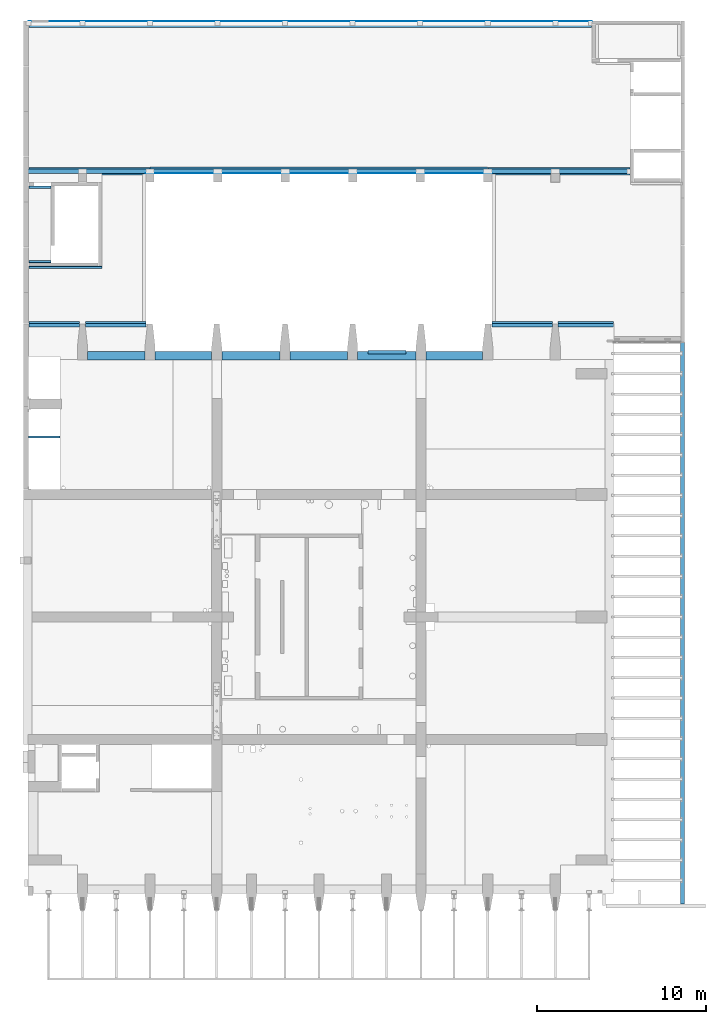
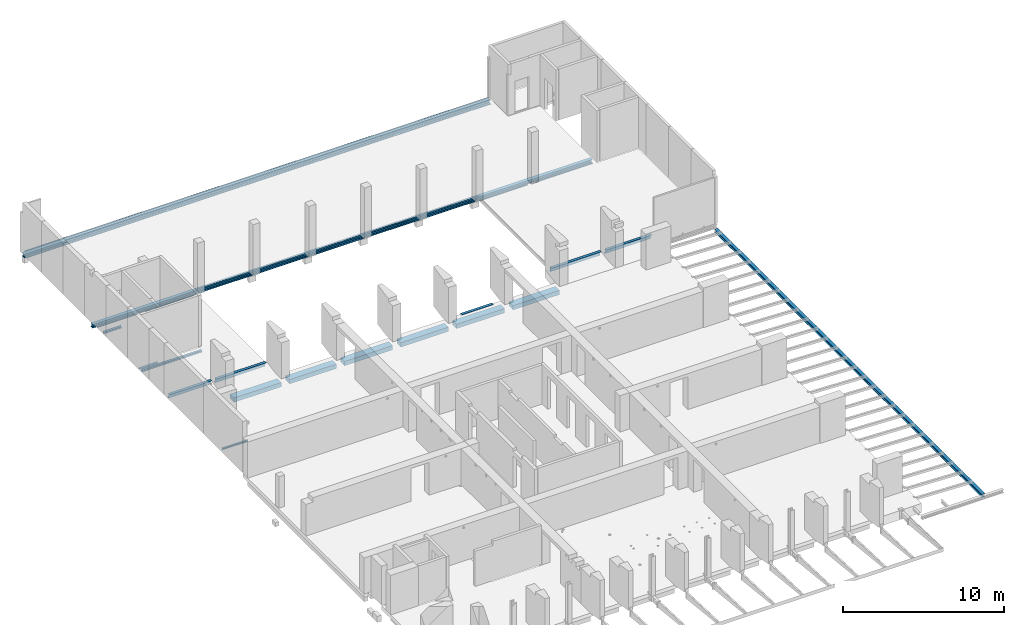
# One storey, part 12 of 27: 17 beams.
"""IFC2X3 building model written with IfcOpenShell, lengths in millimetres."""

from ifc_helpers import new_model, entity, si_unit, converted_unit, derived_unit, direction, frame, frame_2d, origin, origin_2d_with_axis, place, context, subcontext, project, spatial, polyline, circle_curve, parameter, trimmed, segment, composite_curve, rectangle, i_section, outline, extrude, source, transform, mapped, material, type_object, type_shapes, element, save


model = new_model("IFC2X3")

# Units and contexts
model_context = context("Model", 3, precision=0.01, world=origin(), true_north=direction((6.12303176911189e-17, 1.0)))
body_context = subcontext(model_context, "Body", "Model", "MODEL_VIEW")
ifc_project = project(units=[si_unit("LENGTHUNIT", "METRE", prefix="MILLI"), si_unit("AREAUNIT", "SQUARE_METRE"), si_unit("VOLUMEUNIT", "CUBIC_METRE"), converted_unit("PLANEANGLEUNIT", "DEGREE", entity("IfcRatioMeasure", 0.0174532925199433), si_unit("PLANEANGLEUNIT", "RADIAN"), dimensions=[0, 0, 0, 0, 0, 0, 0]), si_unit("MASSUNIT", "GRAM", prefix="KILO"), derived_unit("MASSDENSITYUNIT", [(si_unit("MASSUNIT", "GRAM", prefix="KILO"), 1), (si_unit("LENGTHUNIT", "METRE"), -3)]), si_unit("TIMEUNIT", "SECOND"), si_unit("FREQUENCYUNIT", "HERTZ"), si_unit("THERMODYNAMICTEMPERATUREUNIT", "DEGREE_CELSIUS"), derived_unit("THERMALTRANSMITTANCEUNIT", [(si_unit("MASSUNIT", "GRAM", prefix="KILO"), 1), (si_unit("THERMODYNAMICTEMPERATUREUNIT", "KELVIN"), -1), (si_unit("TIMEUNIT", "SECOND"), -3)]), derived_unit("VOLUMETRICFLOWRATEUNIT", [(si_unit("LENGTHUNIT", "METRE"), 3), (si_unit("TIMEUNIT", "SECOND"), -1)]), si_unit("ELECTRICCURRENTUNIT", "AMPERE"), si_unit("ELECTRICVOLTAGEUNIT", "VOLT"), si_unit("POWERUNIT", "WATT"), si_unit("FORCEUNIT", "NEWTON", prefix="KILO"), si_unit("ILLUMINANCEUNIT", "LUX"), si_unit("LUMINOUSFLUXUNIT", "LUMEN"), si_unit("LUMINOUSINTENSITYUNIT", "CANDELA"), derived_unit("USERDEFINED", [(si_unit("MASSUNIT", "GRAM", prefix="KILO"), -1), (si_unit("LENGTHUNIT", "METRE"), -2), (si_unit("TIMEUNIT", "SECOND"), 3), (si_unit("LUMINOUSFLUXUNIT", "LUMEN"), 1)]), derived_unit("LINEARVELOCITYUNIT", [(si_unit("LENGTHUNIT", "METRE"), 1), (si_unit("TIMEUNIT", "SECOND"), -1)]), si_unit("PRESSUREUNIT", "PASCAL"), derived_unit("USERDEFINED", [(si_unit("LENGTHUNIT", "METRE"), -2), (si_unit("MASSUNIT", "GRAM", prefix="KILO"), 1), (si_unit("TIMEUNIT", "SECOND"), -2)])], contexts=[model_context])

# Site, building, storey
site_placement = place(None, origin())
site = spatial("IfcSite", under=ifc_project, at=site_placement, Name="Default", CompositionType="ELEMENT")
building_placement = place(site_placement, origin())
building = spatial("IfcBuilding", under=site, at=building_placement, Name="niet gebruiken", CompositionType="ELEMENT")
storey_placement = place(building_placement, frame((0.0, 0.0, 6000.0)))
storey = spatial("IfcBuildingStorey", under=building, at=storey_placement, Name="01 eerste verdieping", CompositionType="ELEMENT", Elevation=6000.0)

# Beams
ifc_material_1 = material(Name="NLRS_h2_staal")
beam_type_1 = type_object("IfcBeamType", Name="NLRS_28.11_SF_WPB_stalen ligger HEA_gen:ligger HEA 120", PredefinedType="BEAM")
beam_1_placement = place(storey_placement, frame((124560.0, 28165.0, -168.0)))
element("IfcBeam", 1, at=beam_1_placement, inside=storey, type_object=beam_type_1, material=ifc_material_1, Name="NLRS_28.11_SF_WPB_stalen ligger HEA_gen:ligger HEA 120", ObjectType="NLRS_28.11_SF_WPB_stalen ligger HEA_gen:ligger HEA 120", context=body_context, shape_type="SweptSolid", body=[
    extrude(i_section(OverallWidth=120.000000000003, OverallDepth=114.0, WebThickness=4.9999999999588, FlangeThickness=8.00000000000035, FilletRadius=12.0000000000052, at=frame_2d((-1.08002495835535e-12, 4.33075797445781e-12), x_axis=(0.0, 1.0))), frame((0.0, 0.0, -57.0), z_axis=(1.0, 0.0, 0.0), x_axis=(0.0, 0.0, -1.0)), (0.0, 0.0, 1.0), 1850.0),
])
ifc_material_2 = material(Name="NLRS_f2_beton ihwg")
beam_type_2 = type_object("IfcBeamType", Name="500x600", PredefinedType="BEAM", material=ifc_material_2)
shared_shape_1 = source(origin(), body_context, "Body", "SweptSolid", [
    extrude(rectangle(XDim=3350.0, YDim=499.999999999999, at=frame_2d((335.000000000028, -45.9999999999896), x_axis=(1.0, 0.0))), frame((150110.0, 32934.0, 5310.0), z_axis=(0.0, 0.0, 1.0), x_axis=(-1.0, 0.0, 0.0)), (0.0, 0.0, 1.0), 329.999999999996),
    extrude(rectangle(XDim=3400.00000000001, YDim=499.999999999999, at=frame_2d((8.64019966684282e-12, -2.17426077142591e-12), x_axis=(1.0, 0.0))), frame((129750.0, 32980.0, 5310.0), z_axis=(0.0, 0.0, 1.0), x_axis=(-1.0, 0.0, 0.0)), (0.0, 0.0, 1.0), 329.999999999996),
    extrude(rectangle(XDim=3450.0, YDim=499.999999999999, at=frame_2d((-8.64019966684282e-12, -2.17426077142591e-12), x_axis=(1.0, 0.0))), frame((145775.0, 32980.0, 5310.0), z_axis=(0.0, 0.0, 1.0), x_axis=(-1.0, 0.0, 0.0)), (0.0, 0.0, 1.0), 329.999999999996),
    extrude(rectangle(XDim=3399.99999999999, YDim=499.999999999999, at=origin_2d_with_axis()), frame((141750.0, 32980.0, 5310.0), z_axis=(0.0, 0.0, 1.0), x_axis=(-1.0, 0.0, 0.0)), (0.0, 0.0, 1.0), 329.999999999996),
    extrude(rectangle(XDim=3450.0, YDim=499.999999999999, at=frame_2d((8.64019966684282e-12, 2.17426077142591e-12), x_axis=(1.0, 0.0))), frame((137725.0, 32980.0, 5310.0), z_axis=(0.0, 0.0, 1.0), x_axis=(-1.0, 0.0, 0.0)), (0.0, 0.0, 1.0), 329.999999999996),
    extrude(rectangle(XDim=3350.0, YDim=499.999999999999, at=frame_2d((0.0, -4.33431068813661e-12), x_axis=(1.0, 0.0))), frame((133725.0, 32980.0, 5310.0), z_axis=(0.0, 0.0, 1.0), x_axis=(-1.0, 0.0, 0.0)), (0.0, 0.0, 1.0), 329.999999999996),
])
type_shapes(beam_type_2, [shared_shape_1])
beam_2_placement = place(storey_placement, frame((0.0, 0.0, -6000.0)))
element("IfcBeam", 2, at=beam_2_placement, inside=storey, type_object=beam_type_2, material=ifc_material_2, Name="NLRS_28.11_SF_WPB_betonbalk ihwg recht_gen:500x600", ObjectType="500x600", context=body_context, shape_type="MappedRepresentation", body=[
    mapped(shared_shape_1, transform((0.0, 0.0, 0.0), scale=1.0)),
])
beam_type_3 = type_object("IfcBeamType", Name="ligger SFB250 HE260A+355x12", PredefinedType="BEAM", material=ifc_material_1)
shared_shape_2 = source(origin(), body_context, "Body", "SweptSolid", [
    extrude(outline(polyline([(-205.0, -11223.3333333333), (55.0, -11223.3333333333), (55.0, -11053.3333333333), (150.0, -11053.3333333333), (150.0, 22276.6666666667), (-205.0, 22276.6666666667), (-205.0, -11223.3333333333)])), frame((135623.333333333, 52570.0, 5568.0), z_axis=(0.0, 0.0, 1.0), x_axis=(0.0, -1.0, 0.0)), (0.0, 0.0, 1.0), 11.9999999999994),
    extrude(outline(composite_curve([segment(polyline([(112.500000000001, -130.0), (125.0, -130.0)]), True, "CONTINUOUS"), segment(polyline([(125.0, -130.0), (125.0, 130.0)]), True, "CONTINUOUS"), segment(polyline([(125.0, 130.0), (112.500000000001, 130.0)]), True, "CONTINUOUS"), segment(polyline([(112.500000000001, 130.0), (112.500000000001, 27.75)]), True, "CONTINUOUS"), segment(trimmed(circle_curve(frame_2d((88.5000000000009, 27.75), x_axis=(0.0, 1.0)), 24.0), [parameter(180.000000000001)], [parameter(270.0)], True, "PARAMETER"), False, "CONTINUOUS"), segment(polyline([(88.5000000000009, 3.75000000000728), (-88.4999999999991, 3.75000000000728)]), True, "CONTINUOUS"), segment(trimmed(circle_curve(frame_2d((-88.4999999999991, 27.75), x_axis=(0.0, 1.0)), 24.0), [parameter(90.0000000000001)], [parameter(180.0)], True, "PARAMETER"), False, "CONTINUOUS"), segment(polyline([(-112.499999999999, 27.75), (-112.499999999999, 130.0)]), True, "CONTINUOUS"), segment(polyline([(-112.499999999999, 130.0), (-125.0, 130.0)]), True, "CONTINUOUS"), segment(polyline([(-125.0, 130.0), (-125.0, -130.0)]), True, "CONTINUOUS"), segment(polyline([(-125.0, -130.0), (-112.499999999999, -130.0)]), True, "CONTINUOUS"), segment(polyline([(-112.499999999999, -130.0), (-112.499999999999, -27.7499999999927)]), True, "CONTINUOUS"), segment(trimmed(circle_curve(frame_2d((-88.4999999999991, -27.7499999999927), x_axis=(0.0, 1.0)), 24.0), [parameter(3.56222124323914e-13)], [parameter(90.0000000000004)], True, "PARAMETER"), False, "CONTINUOUS"), segment(polyline([(-88.4999999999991, -3.75), (88.5000000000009, -3.75)]), True, "CONTINUOUS"), segment(trimmed(circle_curve(frame_2d((88.5000000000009, -27.7499999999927), x_axis=(0.0, 1.0)), 24.0), [parameter(270.0)], [parameter(3.56222124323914e-13)], True, "PARAMETER"), False, "CONTINUOUS"), segment(polyline([(112.500000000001, -27.7499999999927), (112.500000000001, -130.0)]), True, "CONTINUOUS")], self_intersect=False)), frame((124400.0, 52645.0, 5705.0), z_axis=(1.0, 0.0, 0.0), x_axis=(0.0, 0.0, 1.0)), (0.0, 0.0, 1.0), 33500.0),
])
type_shapes(beam_type_3, [shared_shape_2])
beam_3_placement = place(storey_placement, frame((0.0, 0.0, -6000.0)))
element("IfcBeam", 3, at=beam_3_placement, inside=storey, type_object=beam_type_3, material=ifc_material_1, Name="NLRS_28.11_SF_WPB_stalen ligger SFB_gen_BSc:ligger SFB250 HE260A+355x12", ObjectType="ligger SFB250 HE260A+355x12", context=body_context, shape_type="MappedRepresentation", body=[
    mapped(shared_shape_2, transform((0.0, 0.0, 0.0), scale=1.0)),
])
beam_type_4 = type_object("IfcBeamType", Name="ligger SFB260 HE260B+375x12", PredefinedType="BEAM", material=ifc_material_1)
shared_shape_3 = source(origin(), body_context, "Body", "SweptSolid", [
    extrude(rectangle(XDim=19980.0, YDim=375.000000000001, at=origin_2d_with_axis()), frame((141750.0, 43947.5, 5568.0), z_axis=(0.0, 0.0, 1.0), x_axis=(-1.0, 0.0, 0.0)), (0.0, 0.0, 1.0), 11.9999999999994),
    extrude(outline(composite_curve([segment(polyline([(-130.0, -112.499999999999), (-130.0, -130.0)]), True, "CONTINUOUS"), segment(polyline([(-130.0, -130.0), (130.0, -130.0)]), True, "CONTINUOUS"), segment(polyline([(130.0, -130.0), (130.0, -112.499999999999)]), True, "CONTINUOUS"), segment(polyline([(130.0, -112.499999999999), (29.0, -112.499999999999)]), True, "CONTINUOUS"), segment(trimmed(circle_curve(frame_2d((29.0, -88.4999999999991), x_axis=(1.0, 0.0)), 24.0), [parameter(180.000000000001)], [parameter(270.0)], True, "PARAMETER"), False, "CONTINUOUS"), segment(polyline([(5.0, -88.4999999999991), (5.0, 88.5)]), True, "CONTINUOUS"), segment(trimmed(circle_curve(frame_2d((29.0, 88.5), x_axis=(1.0, 0.0)), 24.0), [parameter(90.0000000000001)], [parameter(180.0)], True, "PARAMETER"), False, "CONTINUOUS"), segment(polyline([(29.0, 112.5), (130.0, 112.5)]), True, "CONTINUOUS"), segment(polyline([(130.0, 112.5), (130.0, 130.0)]), True, "CONTINUOUS"), segment(polyline([(130.0, 130.0), (-130.0, 130.0)]), True, "CONTINUOUS"), segment(polyline([(-130.0, 130.0), (-130.0, 112.5)]), True, "CONTINUOUS"), segment(polyline([(-130.0, 112.5), (-29.0, 112.5)]), True, "CONTINUOUS"), segment(trimmed(circle_curve(frame_2d((-29.0, 88.5), x_axis=(1.0, 0.0)), 24.0), [parameter(3.56222124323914e-13)], [parameter(90.0000000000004)], True, "PARAMETER"), False, "CONTINUOUS"), segment(polyline([(-5.0, 88.5), (-5.0, -88.4999999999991)]), True, "CONTINUOUS"), segment(trimmed(circle_curve(frame_2d((-29.0, -88.4999999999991), x_axis=(1.0, 0.0)), 24.0), [parameter(270.0)], [parameter(3.56222124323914e-13)], True, "PARAMETER"), False, "CONTINUOUS"), segment(polyline([(-29.0, -112.499999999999), (-130.0, -112.499999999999)]), True, "CONTINUOUS")], self_intersect=False)), frame((131760.0, 43890.0, 5710.0), z_axis=(-1.0, 0.0, 0.0), x_axis=(0.0, 1.0, 0.0)), (0.0, 0.0, -1.0), 19980.0),
])
type_shapes(beam_type_4, [shared_shape_3])
beam_4_placement = place(storey_placement, frame((0.0, 0.0, -6000.0)))
element("IfcBeam", 4, at=beam_4_placement, inside=storey, type_object=beam_type_4, material=ifc_material_1, Name="NLRS_28.11_SF_WPB_stalen ligger SFB_gen_BSc:ligger SFB260 HE260B+375x12", ObjectType="ligger SFB260 HE260B+375x12", context=body_context, shape_type="MappedRepresentation", body=[
    mapped(shared_shape_3, transform((0.0, 0.0, 0.0), scale=1.0)),
])
beam_type_5 = type_object("IfcBeamType", Name="NLRS_28.11_SF_WPB_stalen ligger hoekprofiel gelijkzijdig_gen:ligger gelijzijdig hoekprofiel LEQU_150x150x15", PredefinedType="BEAM")
beam_5_placement = place(storey_placement, frame((128900.0, 38227.5000000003, -358.0), z_axis=(0.0, 0.0, 1.0), x_axis=(-1.0, 0.0, 0.0)))
element("IfcBeam", 5, at=beam_5_placement, inside=storey, type_object=beam_type_5, material=ifc_material_1, Name="NLRS_28.11_SF_WPB_stalen ligger hoekprofiel gelijkzijdig_gen:ligger gelijzijdig hoekprofiel LEQU_150x150x15", ObjectType="NLRS_28.11_SF_WPB_stalen ligger hoekprofiel gelijkzijdig_gen:ligger gelijzijdig hoekprofiel LEQU_150x150x15", context=body_context, shape_type="SweptSolid", body=[
    extrude(outline(composite_curve([segment(polyline([(-93.3333333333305, -56.6666666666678), (56.6666666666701, -56.6666666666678)]), True, "CONTINUOUS"), segment(polyline([(56.6666666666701, -56.6666666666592), (56.6666666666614, 93.3333333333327)]), True, "CONTINUOUS"), segment(polyline([(56.6666666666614, 93.3333333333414), (49.6666666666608, 93.3333333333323)]), True, "CONTINUOUS"), segment(trimmed(circle_curve(frame_2d((49.6666666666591, 85.3333333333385), x_axis=(0.0, 1.0)), 7.99999999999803), [parameter(0.0)], [parameter(90.0000000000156)], True, "PARAMETER"), True, "CONTINUOUS"), segment(polyline([(41.666666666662, 85.333333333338), (41.6666666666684, -25.6666666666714)]), True, "CONTINUOUS"), segment(trimmed(circle_curve(frame_2d((25.6666666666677, -25.6666666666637), x_axis=(1.0, 0.0)), 16.0000000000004), [parameter(270.0)], [parameter(0.0)], True, "PARAMETER"), False, "CONTINUOUS"), segment(polyline([(25.6666666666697, -41.66666666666), (-85.333333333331, -41.6666666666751)]), True, "CONTINUOUS"), segment(trimmed(circle_curve(frame_2d((-85.3333333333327, -49.666666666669), x_axis=(0.0, 1.0)), 7.99999999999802), [parameter(0.0)], [parameter(90.0000000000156)], True, "PARAMETER"), True, "CONTINUOUS"), segment(polyline([(-93.3333333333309, -49.6666666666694), (-93.3333333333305, -56.6666666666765)]), True, "CONTINUOUS")], self_intersect=False)), frame((0.0, 14.1666666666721, -18.3333333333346), z_axis=(1.0, 0.0, 0.0), x_axis=(0.0, 0.0, -1.0)), (0.0, 0.0, 1.0), 4330.00000000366),
])
beam_6_placement = place(storey_placement, frame((124570.0, 42987.5, -358.0)))
element("IfcBeam", 6, at=beam_6_placement, inside=storey, type_object=beam_type_5, material=ifc_material_1, Name="NLRS_28.11_SF_WPB_stalen ligger hoekprofiel gelijkzijdig_gen:ligger gelijzijdig hoekprofiel LEQU_150x150x15", ObjectType="NLRS_28.11_SF_WPB_stalen ligger hoekprofiel gelijkzijdig_gen:ligger gelijzijdig hoekprofiel LEQU_150x150x15", context=body_context, shape_type="SweptSolid", body=[
    extrude(outline(composite_curve([segment(polyline([(49.6666666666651, -93.3333333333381), (56.6666666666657, -93.3333333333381)]), True, "CONTINUOUS"), segment(polyline([(56.6666666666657, -93.3333333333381), (56.6666666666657, 56.6666666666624)]), True, "CONTINUOUS"), segment(polyline([(56.6666666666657, 56.6666666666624), (-93.3333333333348, 56.6666666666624)]), True, "CONTINUOUS"), segment(polyline([(-93.3333333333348, 56.6666666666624), (-93.3333333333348, 49.666666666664)]), True, "CONTINUOUS"), segment(trimmed(circle_curve(frame_2d((-85.3333333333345, 49.666666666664), x_axis=(-1.0, 0.0)), 7.99999999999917), [parameter(0.0)], [parameter(90.0000000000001)], True, "PARAMETER"), True, "CONTINUOUS"), segment(polyline([(-85.3333333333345, 41.6666666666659), (25.6666666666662, 41.6666666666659)]), True, "CONTINUOUS"), segment(trimmed(circle_curve(frame_2d((25.6666666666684, 25.6666666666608), x_axis=(0.0, 1.0)), 15.9999999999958), [parameter(269.999999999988)], [parameter(0.0)], True, "PARAMETER"), False, "CONTINUOUS"), segment(polyline([(41.6666666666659, 25.6666666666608), (41.6666666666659, -85.3333333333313)]), True, "CONTINUOUS"), segment(trimmed(circle_curve(frame_2d((49.6666666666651, -85.3333333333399), x_axis=(-1.0, 0.0)), 7.99999999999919), [parameter(0.0)], [parameter(90.0000000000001)], True, "PARAMETER"), True, "CONTINUOUS")], self_intersect=False)), frame((0.0, -14.1666666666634, -18.3333333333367), z_axis=(1.0, 0.0, 0.0), x_axis=(0.0, 0.0, -1.0)), (0.0, 0.0, 1.0), 1310.00000000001),
])
beam_7_placement = place(storey_placement, frame((124570.0, 38512.5, -358.0)))
element("IfcBeam", 7, at=beam_7_placement, inside=storey, type_object=beam_type_5, material=ifc_material_1, Name="NLRS_28.11_SF_WPB_stalen ligger hoekprofiel gelijkzijdig_gen:ligger gelijzijdig hoekprofiel LEQU_150x150x15", ObjectType="NLRS_28.11_SF_WPB_stalen ligger hoekprofiel gelijkzijdig_gen:ligger gelijzijdig hoekprofiel LEQU_150x150x15", context=body_context, shape_type="SweptSolid", body=[
    extrude(outline(composite_curve([segment(polyline([(-93.333333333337, -56.6666666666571), (56.6666666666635, -56.6666666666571)]), True, "CONTINUOUS"), segment(polyline([(56.6666666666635, -56.6666666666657), (56.6666666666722, 93.3333333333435)]), True, "CONTINUOUS"), segment(polyline([(56.6666666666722, 93.3333333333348), (49.6666666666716, 93.3333333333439)]), True, "CONTINUOUS"), segment(trimmed(circle_curve(frame_2d((49.666666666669, 85.3333333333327), x_axis=(0.0, 1.0)), 7.99999999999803), [parameter(0.0)], [parameter(90.0000000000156)], True, "PARAMETER"), True, "CONTINUOUS"), segment(polyline([(41.6666666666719, 85.3333333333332), (41.6666666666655, -25.6666666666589)]), True, "CONTINUOUS"), segment(trimmed(circle_curve(frame_2d((25.6666666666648, -25.6666666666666), x_axis=(1.0, 0.0)), 16.0000000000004), [parameter(270.0)], [parameter(0.0)], True, "PARAMETER"), False, "CONTINUOUS"), segment(polyline([(25.6666666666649, -41.666666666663), (-85.3333333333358, -41.6666666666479)]), True, "CONTINUOUS"), segment(trimmed(circle_curve(frame_2d((-85.3333333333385, -49.6666666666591), x_axis=(0.0, 1.0)), 7.99999999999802), [parameter(0.0)], [parameter(90.0000000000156)], True, "PARAMETER"), True, "CONTINUOUS"), segment(polyline([(-93.3333333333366, -49.6666666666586), (-93.333333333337, -56.6666666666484)]), True, "CONTINUOUS")], self_intersect=False)), frame((0.0, 14.1666666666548, -18.3333333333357), z_axis=(1.0, 0.0, 0.0), x_axis=(0.0, 0.0, -1.0)), (0.0, 0.0, 1.0), 1310.00000000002),
])
beam_type_6 = type_object("IfcBeamType", Name="NLRS_28.11_SF_WPB_stalen ligger Z-profiel_gen_BSc:ligger Z-profiel 200/15x355/15x150/15", PredefinedType="BEAM")
beam_8_placement = place(storey_placement, frame((127580.0, 34857.5, -242.499999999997), z_axis=(0.0, 0.0, 1.0), x_axis=(-1.0, 0.0, 0.0)))
element("IfcBeam", 8, at=beam_8_placement, inside=storey, type_object=beam_type_6, material=ifc_material_1, Name="NLRS_28.11_SF_WPB_stalen ligger Z-profiel_gen_BSc:ligger Z-profiel 200/15x355/15x150/15", ObjectType="NLRS_28.11_SF_WPB_stalen ligger Z-profiel_gen_BSc:ligger Z-profiel 200/15x355/15x150/15", context=body_context, shape_type="SweptSolid", body=[
    extrude(outline(polyline([(177.500000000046, -155.0), (192.500000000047, -155.0), (192.500000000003, -5.0), (-177.499999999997, -5.0), (-177.500000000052, 180.0), (-192.50000000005, 180.0), (-192.499999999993, -20.0), (177.500000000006, -20.0), (177.500000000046, -155.0)])), frame((0.0, 12.5000000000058, 0.0), z_axis=(1.0, 0.0, 0.0), x_axis=(0.0, 0.0, -1.0)), (0.0, 0.0, 1.0), 3010.00000000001),
])
beam_9_placement = place(storey_placement, frame((155580.0, 34857.500000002, -242.499999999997), z_axis=(0.0, 0.0, 1.0), x_axis=(-1.0, 0.0, 0.0)))
element("IfcBeam", 9, at=beam_9_placement, inside=storey, type_object=beam_type_6, material=ifc_material_1, Name="NLRS_28.11_SF_WPB_stalen ligger Z-profiel_gen_BSc:ligger Z-profiel 200/15x355/15x150/15", ObjectType="NLRS_28.11_SF_WPB_stalen ligger Z-profiel_gen_BSc:ligger Z-profiel 200/15x355/15x150/15", context=body_context, shape_type="SweptSolid", body=[
    extrude(outline(polyline([(177.50000000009, -155.0), (192.500000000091, -155.0), (192.500000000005, -5.0), (-177.499999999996, -5.0), (-177.500000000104, 180.0), (-192.500000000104, 180.0), (-192.499999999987, -20.0), (177.500000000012, -20.0), (177.50000000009, -155.0)])), frame((0.0, 12.5000000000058, 0.0), z_axis=(1.0, 0.0, 0.0), x_axis=(0.0, 0.0, -1.0)), (0.0, 0.0, 1.0), 3580.00000000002),
])
beam_10_placement = place(storey_placement, frame((159200.0, 34857.500000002, -242.499999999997), z_axis=(0.0, 0.0, 1.0), x_axis=(-1.0, 0.0, 0.0)))
element("IfcBeam", 10, at=beam_10_placement, inside=storey, type_object=beam_type_6, material=ifc_material_1, Name="NLRS_28.11_SF_WPB_stalen ligger Z-profiel_gen_BSc:ligger Z-profiel 200/15x355/15x150/15", ObjectType="NLRS_28.11_SF_WPB_stalen ligger Z-profiel_gen_BSc:ligger Z-profiel 200/15x355/15x150/15", context=body_context, shape_type="SweptSolid", body=[
    extrude(outline(polyline([(177.500000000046, -155.0), (192.500000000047, -155.0), (192.500000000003, -5.0), (-177.499999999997, -5.0), (-177.500000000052, 180.0), (-192.50000000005, 180.0), (-192.499999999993, -20.0), (177.500000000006, -20.0), (177.500000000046, -155.0)])), frame((0.0, 12.5000000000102, 0.0), z_axis=(1.0, 0.0, 0.0), x_axis=(0.0, 0.0, -1.0)), (0.0, 0.0, 1.0), 3279.99999999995),
])
beam_11_placement = place(storey_placement, frame((131500.0, 34857.5, -242.499999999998), z_axis=(0.0, 0.0, 1.0), x_axis=(-1.0, 0.0, 0.0)))
element("IfcBeam", 11, at=beam_11_placement, inside=storey, type_object=beam_type_6, material=ifc_material_1, Name="NLRS_28.11_SF_WPB_stalen ligger Z-profiel_gen_BSc:ligger Z-profiel 200/15x355/15x150/15", ObjectType="NLRS_28.11_SF_WPB_stalen ligger Z-profiel_gen_BSc:ligger Z-profiel 200/15x355/15x150/15", context=body_context, shape_type="SweptSolid", body=[
    extrude(outline(polyline([(177.500000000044, -155.0), (192.500000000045, -155.0), (192.500000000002, -5.0), (-177.499999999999, -5.0), (-177.500000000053, 180.0), (-192.500000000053, 180.0), (-192.499999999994, -20.0), (177.500000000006, -20.0), (177.500000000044, -155.0)])), frame((0.0, 12.5000000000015, 0.0), z_axis=(1.0, 0.0, 0.0), x_axis=(0.0, 0.0, -1.0)), (0.0, 0.0, 1.0), 3580.00000000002),
])
beam_type_7 = type_object("IfcBeamType", Name="NLRS_28.11_SF_WPB_stalen ligger HEA_gen:ligger HEA 240", PredefinedType="BEAM")
beam_12_placement = place(storey_placement, frame((163290.0, 510.0, -445.0), z_axis=(0.0, 0.0, 1.0), x_axis=(0.0, 1.0, 0.0)))
element("IfcBeam", 12, at=beam_12_placement, inside=storey, type_object=beam_type_7, material=ifc_material_1, Name="NLRS_28.11_SF_WPB_stalen ligger HEA_gen:ligger HEA 240", ObjectType="NLRS_28.11_SF_WPB_stalen ligger HEA_gen:ligger HEA 240", context=body_context, shape_type="SweptSolid", body=[
    extrude(i_section(OverallWidth=240.000000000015, OverallDepth=230.000000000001, WebThickness=7.49999999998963, FlangeThickness=11.9999999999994, FilletRadius=21.0000000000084, at=frame_2d((-5.40012479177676e-13, 0.0), x_axis=(0.0, 1.0))), frame((0.0, 0.0, -115.0), z_axis=(1.0, 0.0, 0.0), x_axis=(0.0, 0.0, -1.0)), (0.0, 0.0, 1.0), 33240.0),
])
beam_type_8 = type_object("IfcBeamType", Name="ligger SFB260 HE260B+450x12", PredefinedType="BEAM", material=ifc_material_1)
shared_shape_4 = source(origin(), body_context, "Body", "SweptSolid", [
    extrude(outline(polyline([(-3082.0, -322.0), (4088.0, -322.0), (4088.0, 128.0), (1178.0, 128.0), (1178.0, 33.0), (638.0, 33.0), (638.0, 128.0), (-2822.0, 128.0), (-2822.0, 33.0), (-3082.0, 33.0), (-3082.0, -322.0)])), frame((128658.0, 43793.0, 5568.0), z_axis=(0.0, 0.0, 1.0), x_axis=(-1.0, 0.0, 0.0)), (0.0, 0.0, 1.0), 11.9999999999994),
    extrude(outline(composite_curve([segment(polyline([(112.499999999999, -130.0), (130.0, -130.0)]), True, "CONTINUOUS"), segment(polyline([(130.0, -130.0), (130.0, 130.0)]), True, "CONTINUOUS"), segment(polyline([(130.0, 130.0), (112.499999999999, 130.0)]), True, "CONTINUOUS"), segment(polyline([(112.499999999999, 130.0), (112.499999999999, 29.0)]), True, "CONTINUOUS"), segment(trimmed(circle_curve(frame_2d((88.4999999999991, 29.0), x_axis=(0.0, 1.0)), 24.0), [parameter(180.000000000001)], [parameter(270.0)], True, "PARAMETER"), False, "CONTINUOUS"), segment(polyline([(88.4999999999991, 5.0), (-88.5, 5.0)]), True, "CONTINUOUS"), segment(trimmed(circle_curve(frame_2d((-88.5, 29.0), x_axis=(0.0, 1.0)), 24.0), [parameter(90.0000000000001)], [parameter(180.0)], True, "PARAMETER"), False, "CONTINUOUS"), segment(polyline([(-112.5, 29.0), (-112.5, 130.0)]), True, "CONTINUOUS"), segment(polyline([(-112.5, 130.0), (-130.0, 130.0)]), True, "CONTINUOUS"), segment(polyline([(-130.0, 130.0), (-130.0, -130.0)]), True, "CONTINUOUS"), segment(polyline([(-130.0, -130.0), (-112.5, -130.0)]), True, "CONTINUOUS"), segment(polyline([(-112.5, -130.0), (-112.5, -29.0)]), True, "CONTINUOUS"), segment(trimmed(circle_curve(frame_2d((-88.5, -29.0), x_axis=(0.0, 1.0)), 24.0), [parameter(3.56222124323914e-13)], [parameter(90.0000000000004)], True, "PARAMETER"), False, "CONTINUOUS"), segment(polyline([(-88.5, -5.0), (88.4999999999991, -5.0)]), True, "CONTINUOUS"), segment(trimmed(circle_curve(frame_2d((88.4999999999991, -29.0), x_axis=(0.0, 1.0)), 24.0), [parameter(270.0)], [parameter(3.56222124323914e-13)], True, "PARAMETER"), False, "CONTINUOUS"), segment(polyline([(112.499999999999, -29.0), (112.499999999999, -130.0)]), True, "CONTINUOUS")], self_intersect=False)), frame((124270.0, 43890.0, 5710.0), z_axis=(1.0, 0.0, 0.0), x_axis=(0.0, 0.0, 1.0)), (0.0, 0.0, 1.0), 7469.99999999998),
])
type_shapes(beam_type_8, [shared_shape_4])
beam_13_placement = place(storey_placement, frame((0.0, 0.0, -6000.0)))
element("IfcBeam", 13, at=beam_13_placement, inside=storey, type_object=beam_type_8, material=ifc_material_1, Name="NLRS_28.11_SF_WPB_stalen ligger SFB_gen_BSc:ligger SFB260 HE260B+450x12", ObjectType="ligger SFB260 HE260B+450x12", context=body_context, shape_type="MappedRepresentation", body=[
    mapped(shared_shape_4, transform((0.0, 0.0, 0.0), scale=1.0)),
])
beam_type_9 = type_object("IfcBeamType", Name="ligger SFB260 HE260B+450x12", PredefinedType="BEAM", material=ifc_material_1)
shared_shape_5 = source(origin(), body_context, "Body", "SweptSolid", [
    extrude(outline(composite_curve([segment(polyline([(112.499999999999, -130.0), (130.0, -130.0)]), True, "CONTINUOUS"), segment(polyline([(130.0, -130.0), (130.0, 130.0)]), True, "CONTINUOUS"), segment(polyline([(130.0, 130.0), (112.499999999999, 130.0)]), True, "CONTINUOUS"), segment(polyline([(112.499999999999, 130.0), (112.499999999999, 29.0)]), True, "CONTINUOUS"), segment(trimmed(circle_curve(frame_2d((88.4999999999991, 29.0), x_axis=(0.0, 1.0)), 24.0), [parameter(180.000000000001)], [parameter(270.0)], True, "PARAMETER"), False, "CONTINUOUS"), segment(polyline([(88.4999999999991, 5.0), (-88.5, 5.0)]), True, "CONTINUOUS"), segment(trimmed(circle_curve(frame_2d((-88.5, 29.0), x_axis=(0.0, 1.0)), 24.0), [parameter(90.0000000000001)], [parameter(180.0)], True, "PARAMETER"), False, "CONTINUOUS"), segment(polyline([(-112.5, 29.0), (-112.5, 130.0)]), True, "CONTINUOUS"), segment(polyline([(-112.5, 130.0), (-130.0, 130.0)]), True, "CONTINUOUS"), segment(polyline([(-130.0, 130.0), (-130.0, -130.0)]), True, "CONTINUOUS"), segment(polyline([(-130.0, -130.0), (-112.5, -130.0)]), True, "CONTINUOUS"), segment(polyline([(-112.5, -130.0), (-112.5, -29.0)]), True, "CONTINUOUS"), segment(trimmed(circle_curve(frame_2d((-88.5, -29.0), x_axis=(0.0, 1.0)), 24.0), [parameter(3.56222124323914e-13)], [parameter(90.0000000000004)], True, "PARAMETER"), False, "CONTINUOUS"), segment(polyline([(-88.5, -5.0), (88.4999999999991, -5.0)]), True, "CONTINUOUS"), segment(trimmed(circle_curve(frame_2d((88.4999999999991, -29.0), x_axis=(0.0, 1.0)), 24.0), [parameter(270.0)], [parameter(3.56222124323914e-13)], True, "PARAMETER"), False, "CONTINUOUS"), segment(polyline([(112.499999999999, -29.0), (112.499999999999, -130.0)]), True, "CONTINUOUS")], self_intersect=False)), frame((151760.0, 43890.0, 5710.0), z_axis=(1.0, 0.0, 0.0), x_axis=(0.0, 0.0, 1.0)), (0.0, 0.0, 1.0), 8410.00000000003),
    extrude(outline(polyline([(-5080.0, -322.0), (3330.0, -322.0), (3330.0, 33.0), (3070.0, 33.0), (3070.0, 128.0), (-390.0, 128.0), (-390.0, 33.0), (-930.0, 33.0), (-930.0, 128.0), (-5080.0, 128.0), (-5080.0, -322.0)])), frame((155090.0, 43793.0, 5568.0), z_axis=(0.0, 0.0, 1.0), x_axis=(-1.0, 0.0, 0.0)), (0.0, 0.0, 1.0), 11.9999999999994),
])
type_shapes(beam_type_9, [shared_shape_5])
beam_14_placement = place(storey_placement, frame((0.0, 0.0, -6000.0)))
element("IfcBeam", 14, at=beam_14_placement, inside=storey, type_object=beam_type_9, material=ifc_material_1, Name="NLRS_28.11_SF_WPB_stalen ligger SFB_gen_BSc:ligger SFB260 HE260B+450x12", ObjectType="ligger SFB260 HE260B+450x12", context=body_context, shape_type="MappedRepresentation", body=[
    mapped(shared_shape_5, transform((0.0, 0.0, 0.0), scale=1.0)),
])
beam_type_10 = type_object("IfcBeamType", Name="ligger stripstaal RECT_70x5", PredefinedType="BEAM", material=ifc_material_1)
shared_shape_6 = source(origin(), body_context, "Body", "SweptSolid", [
    extrude(rectangle(XDim=20500.0, YDim=4.99999999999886, at=frame_2d((9.09494701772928e-12, 4.33142410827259e-12), x_axis=(1.0, 0.0))), frame((141750.0, 43762.5, 5840.0)), (0.0, 0.0, 1.0), 70.0000000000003),
    extrude(rectangle(XDim=20500.0, YDim=4.99999999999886, at=frame_2d((9.09494701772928e-12, 4.33142410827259e-12), x_axis=(1.0, 0.0))), frame((141750.0, 43762.5, 5840.0)), (0.0, 0.0, 1.0), 70.0000000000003),
])
type_shapes(beam_type_10, [shared_shape_6])
beam_15_placement = place(storey_placement, frame((0.0, 0.0, -6000.0)))
element("IfcBeam", 15, at=beam_15_placement, inside=storey, type_object=beam_type_10, material=ifc_material_1, Name="NLRS_28.11_SF_WPB_stalen ligger stripstaal_gen:ligger stripstaal RECT_70x5", ObjectType="ligger stripstaal RECT_70x5", context=body_context, shape_type="MappedRepresentation", body=[
    mapped(shared_shape_6, transform((0.0, 0.0, 0.0), scale=1.0)),
])
beam_type_11 = type_object("IfcBeamType", Name="ligger stripstaal RECT_80x5", PredefinedType="BEAM", material=ifc_material_1)
shared_shape_7 = source(origin(), body_context, "Body", "SweptSolid", [
    extrude(rectangle(XDim=33330.0, YDim=4.99999999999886, at=frame_2d((-1.81898940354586e-11, 0.0), x_axis=(1.0, 0.0))), frame((141235.0, 52772.5, 5830.0)), (0.0, 0.0, 1.0), 80.0000000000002),
    extrude(rectangle(XDim=33330.0, YDim=4.99999999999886, at=frame_2d((-1.81898940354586e-11, 0.0), x_axis=(1.0, 0.0))), frame((141235.0, 52772.5, 5830.0)), (0.0, 0.0, 1.0), 80.0000000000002),
])
type_shapes(beam_type_11, [shared_shape_7])
beam_16_placement = place(storey_placement, frame((0.0, 0.0, -6000.0)))
element("IfcBeam", 16, at=beam_16_placement, inside=storey, type_object=beam_type_11, material=ifc_material_1, Name="NLRS_28.11_SF_WPB_stalen ligger stripstaal_gen:ligger stripstaal RECT_80x5", ObjectType="ligger stripstaal RECT_80x5", context=body_context, shape_type="MappedRepresentation", body=[
    mapped(shared_shape_7, transform((0.0, 0.0, 0.0), scale=1.0)),
])
beam_type_12 = type_object("IfcBeamType", Name="NLRS_28.11_SF_WPB_stalen ligger hoekprofiel gelijkzijdig_gen:ligger gelijzijdig hoekprofiel LEQU_200x200x20", PredefinedType="BEAM")
beam_17_placement = place(storey_placement, frame((146905.0, 33080.0, -106.679999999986), z_axis=(0.0, 0.0, 1.0), x_axis=(-1.0, 0.0, 0.0)))
element("IfcBeam", 17, at=beam_17_placement, inside=storey, type_object=beam_type_12, material=ifc_material_1, Name="NLRS_28.11_SF_WPB_stalen ligger hoekprofiel gelijkzijdig_gen:ligger gelijzijdig hoekprofiel LEQU_200x200x20", ObjectType="NLRS_28.11_SF_WPB_stalen ligger hoekprofiel gelijkzijdig_gen:ligger gelijzijdig hoekprofiel LEQU_200x200x20", context=body_context, shape_type="SweptSolid", body=[
    extrude(outline(composite_curve([segment(polyline([(-75.5555555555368, -75.5555555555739), (124.444444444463, -75.5555555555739)]), True, "CONTINUOUS"), segment(polyline([(124.444444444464, -75.5555555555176), (124.444444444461, -64.5555555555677)]), True, "CONTINUOUS"), segment(trimmed(circle_curve(frame_2d((115.444444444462, -64.5555555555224), x_axis=(1.0, 0.0)), 8.99999999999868), [parameter(0.0)], [parameter(90.000000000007)], True, "PARAMETER"), True, "CONTINUOUS"), segment(polyline([(115.444444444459, -55.5555555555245), (-37.5555555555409, -55.5555555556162)]), True, "CONTINUOUS"), segment(trimmed(circle_curve(frame_2d((-37.5555555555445, -37.555555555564), x_axis=(0.0, -1.0)), 18.0000000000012), [parameter(270.000000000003)], [parameter(0.0)], True, "PARAMETER"), False, "CONTINUOUS"), segment(polyline([(-55.5555555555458, -37.5555555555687), (-55.5555555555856, 115.444444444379)]), True, "CONTINUOUS"), segment(trimmed(circle_curve(frame_2d((-64.5555555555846, 115.444444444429), x_axis=(1.0, 0.0)), 8.99999999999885), [parameter(0.0)], [parameter(90.000000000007)], True, "PARAMETER"), True, "CONTINUOUS"), segment(polyline([(-64.5555555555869, 124.444444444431), (-75.5555555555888, 124.444444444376)]), True, "CONTINUOUS"), segment(polyline([(-75.5555555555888, 124.444444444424), (-75.5555555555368, -75.5555555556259)]), True, "CONTINUOUS")], self_intersect=False)), frame((0.0, -124.444444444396, -18.7555555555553), z_axis=(1.0, 0.0, 0.0), x_axis=(0.0, 0.0, -1.0)), (0.0, 0.0, 1.0), 2260.00000000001),
])

save(model, "model.ifc")
